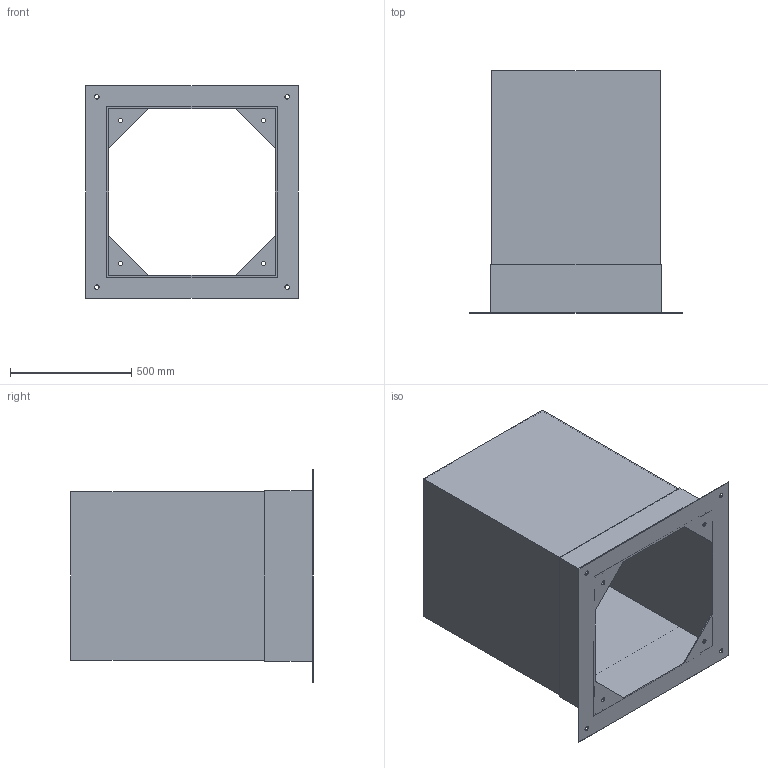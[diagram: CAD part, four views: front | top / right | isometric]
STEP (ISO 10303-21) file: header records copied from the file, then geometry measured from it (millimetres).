
FILE_DESCRIPTION(('STEP AP214'),'1');
FILE_NAME('accessory_5136865200.stp','2017-10-09T10:29:52',('TraceParts'),('TraceParts S.A.'),'Spatial InterOp 3D',' ',' ');
FILE_SCHEMA(('automotive_design'));
Length unit declared in the file: millimetre
Products named in the file (1): accessory_5136865200
Bounding box: 875 x 1000 x 875 mm (x, y, z)
Volume: 14805818.5 mm3; surface area: 6337748.6 mm2
Topology: 1 solids, 1 shells, 60 faces, 168 edges, 112 vertices
Faces by surface type: plane 36, cylinder 24
Entity records: 2488 total; most frequent: CARTESIAN_POINT 341, DIRECTION 338, ORIENTED_EDGE 336, EDGE_CURVE 168, LINE 120, VECTOR 120, VERTEX_POINT 112, AXIS2_PLACEMENT_3D 109
